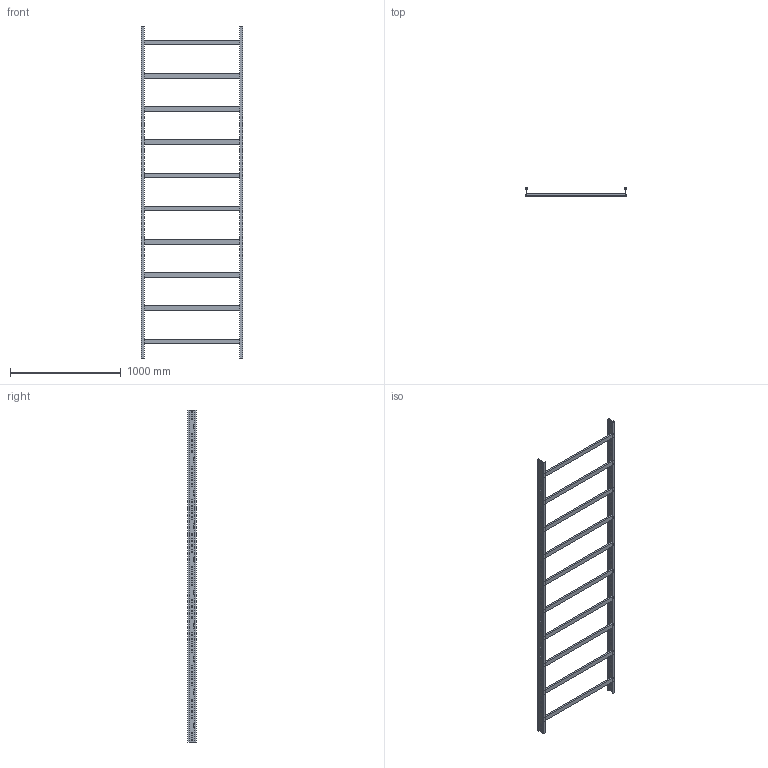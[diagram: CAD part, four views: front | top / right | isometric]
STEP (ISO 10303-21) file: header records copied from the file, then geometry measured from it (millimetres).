
FILE_DESCRIPTION (( 'STEP AP214' ), '1' );
FILE_NAME ('01S3C900.step', '2025-02-21T16:21:20', ( '' ), ( '' ), 'SwSTEP 2.0', 'SolidWorks 2023', '' );
FILE_SCHEMA (( 'AUTOMOTIVE_DESIGN' ));
Length unit declared in the file: millimetre
Products named in the file (3): TRAVERSINO_900; LONGH.H75; 01S3C900
Assembly tree (12 placements, depth 2):
  01S3C900
    LONGH.H75  x2
    TRAVERSINO_900  x10
Bounding box: 918 x 75 x 3000 mm (x, y, z)
Volume: 10195200 mm3; surface area: 2557701 mm2
Topology: 12 solids, 12 shells, 408 faces, 1152 edges, 768 vertices
Faces by surface type: plane 408
Entity records: 6180 total; most frequent: CARTESIAN_POINT 1075, ORIENTED_EDGE 1056, DIRECTION 918, EDGE_CURVE 528, LINE 528, VECTOR 528, VERTEX_POINT 352, EDGE_LOOP 260
